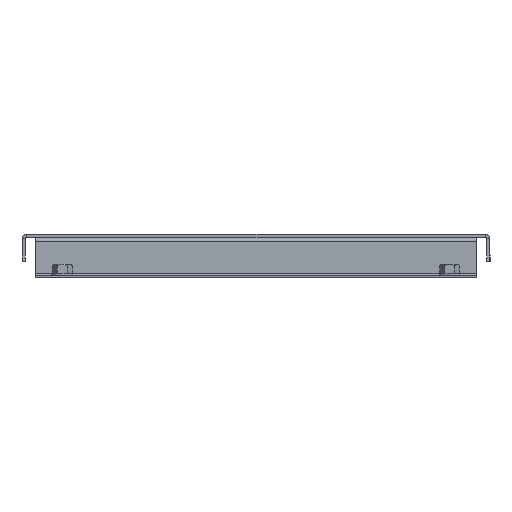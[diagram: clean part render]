
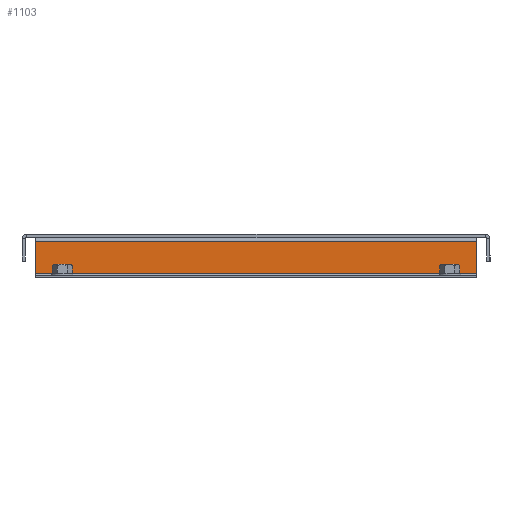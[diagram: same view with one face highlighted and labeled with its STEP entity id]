
A CAD part, left-side view. The second image highlights one B-rep face of the part: STEP entity #1103.
In plain terms, the highlighted planar face has unit normal (-1, 0, 0) as drawn and (0, 0, -1) by its records, which use the part's own axes.
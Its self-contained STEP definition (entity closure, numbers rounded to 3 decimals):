
#4 = PLANE ( 'NONE',  #1815 ) ;
#249 = DIRECTION ( 'NONE',  ( 1., 0., 0. ) ) ;
#423 = CARTESIAN_POINT ( 'NONE',  ( 0., 2., -27. ) ) ;
#485 = CARTESIAN_POINT ( 'NONE',  ( 330., 27., -27. ) ) ;
#663 = ORIENTED_EDGE ( 'NONE', *, *, #4172, .F. ) ;
#772 = CARTESIAN_POINT ( 'NONE',  ( 330., 27., -27. ) ) ;
#860 = DIRECTION ( 'NONE',  ( 0., -1., 0. ) ) ;
#917 = ORIENTED_EDGE ( 'NONE', *, *, #3259, .F. ) ;
#1103 = ADVANCED_FACE ( 'NONE', ( #1738 ), #4, .F. ) ;
#1148 = VECTOR ( 'NONE', #5160, 1000. ) ;
#1229 = CARTESIAN_POINT ( 'NONE',  ( 330., 3., -27. ) ) ;
#1350 = CARTESIAN_POINT ( 'NONE',  ( 0., 3., -27. ) ) ;
#1710 = EDGE_CURVE ( 'NONE', #2356, #3948, #3068, .T. ) ;
#1738 = FACE_OUTER_BOUND ( 'NONE', #4943, .T. ) ;
#1797 = VECTOR ( 'NONE', #5193, 1000. ) ;
#1815 = AXIS2_PLACEMENT_3D ( 'NONE', #423, #2132, #4635 ) ;
#2132 = DIRECTION ( 'NONE',  ( 0., 0., 1. ) ) ;
#2133 = VECTOR ( 'NONE', #860, 1000. ) ;
#2356 = VERTEX_POINT ( 'NONE', #772 ) ;
#2362 = ORIENTED_EDGE ( 'NONE', *, *, #4383, .T. ) ;
#2533 = VECTOR ( 'NONE', #249, 1000. ) ;
#3068 = LINE ( 'NONE', #4628, #2133 ) ;
#3259 = EDGE_CURVE ( 'NONE', #4264, #3948, #3913, .T. ) ;
#3260 = LINE ( 'NONE', #3950, #1797 ) ;
#3533 = LINE ( 'NONE', #485, #1148 ) ;
#3559 = ORIENTED_EDGE ( 'NONE', *, *, #1710, .T. ) ;
#3720 = CARTESIAN_POINT ( 'NONE',  ( 0., 27., -27. ) ) ;
#3913 = LINE ( 'NONE', #5419, #2533 ) ;
#3948 = VERTEX_POINT ( 'NONE', #1229 ) ;
#3950 = CARTESIAN_POINT ( 'NONE',  ( 0., 2., -27. ) ) ;
#4172 = EDGE_CURVE ( 'NONE', #2356, #4632, #3533, .T. ) ;
#4264 = VERTEX_POINT ( 'NONE', #1350 ) ;
#4383 = EDGE_CURVE ( 'NONE', #4264, #4632, #3260, .T. ) ;
#4628 = CARTESIAN_POINT ( 'NONE',  ( 330., 2., -27. ) ) ;
#4632 = VERTEX_POINT ( 'NONE', #3720 ) ;
#4635 = DIRECTION ( 'NONE',  ( 0., -1., 0. ) ) ;
#4943 = EDGE_LOOP ( 'NONE', ( #663, #3559, #917, #2362 ) ) ;
#5160 = DIRECTION ( 'NONE',  ( -1., 0., 0. ) ) ;
#5193 = DIRECTION ( 'NONE',  ( 0., 1., 0. ) ) ;
#5419 = CARTESIAN_POINT ( 'NONE',  ( 330., 3., -27. ) ) ;
